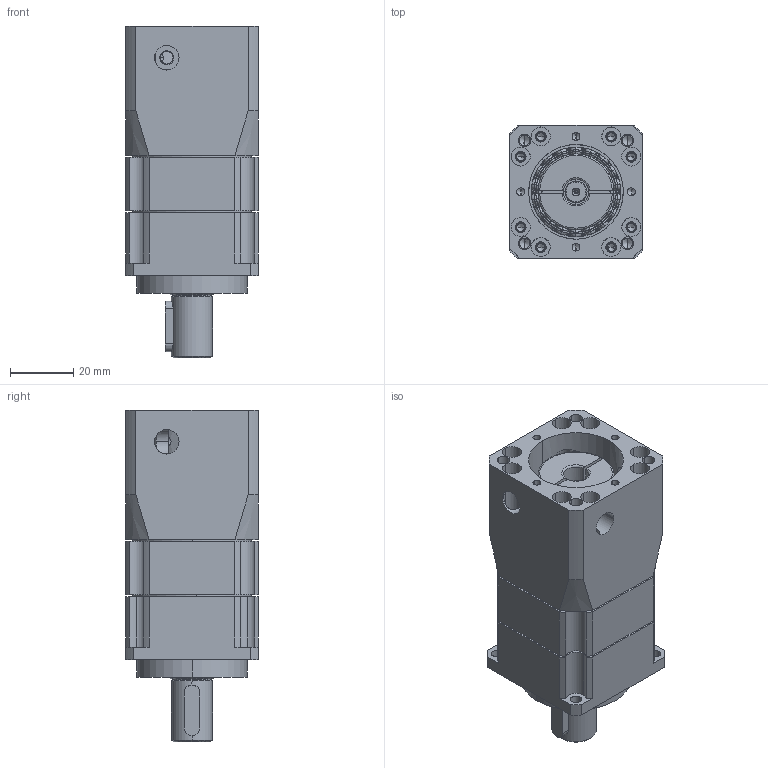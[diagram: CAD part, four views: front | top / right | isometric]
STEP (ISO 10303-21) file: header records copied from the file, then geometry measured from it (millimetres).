
FILE_DESCRIPTION (( 'STEP AP203' ), '1' );
FILE_NAME ('GNP40L2-8-30-46-M4.STEP', '2012-10-31T09:04:01', ( 'user' ), ( 'SYNNEX' ), 'SwSTEP 2.0', 'SolidWorks 2008', '' );
FILE_SCHEMA (( 'CONFIG_CONTROL_DESIGN' ));
Products named in the file (1): GNP40L2-8-30-46-M4
Bounding box: 42 x 42 x 105 mm (x, y, z)
Volume: 84454.7 mm3; surface area: 57871.2 mm2
Topology: 11 solids, 11 shells, 908 faces, 2525 edges, 1630 vertices
Faces by surface type: cylinder 308, sphere 256, plane 182, cone 90, torus 66, bspline 6
Entity records: 39921 total; most frequent: CARTESIAN_POINT 16458, ORIENTED_EDGE 4958, DIRECTION 4958, EDGE_CURVE 2479, AXIS2_PLACEMENT_3D 2222, VERTEX_POINT 1630, CIRCLE 1319, EDGE_LOOP 1153
